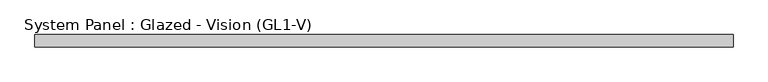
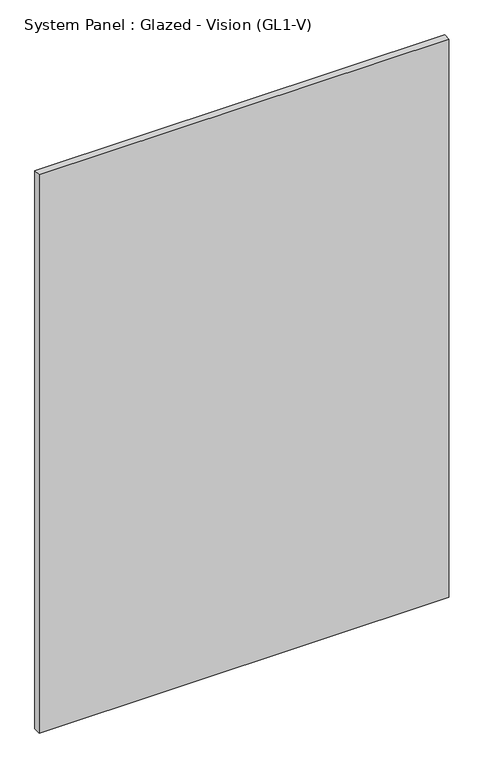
"""IFC4 building model written with IfcOpenShell, lengths in millimetres: plate geometry, System Panel : Glazed - Vision (GL1-V)."""

from ifc_helpers import new_model, si_unit, origin, origin_with_axes, place, context, project, spatial, polyline, outline, extrude, source, transform, mapped, element, save


def system_panel_glazed_vision_gl1_v_680a700e(model_context):
    return source(origin(), model_context, "Body", "SweptSolid", [
        extrude(outline(polyline([(714.375, -25.4), (-714.375, -25.4), (-714.375, 0.0), (714.375, 0.0), (714.375, -25.4)])), origin_with_axes(), (0.0, 0.0, 1.0), 2057.4),
    ])


if __name__ == "__main__":
    model = new_model("IFC4")
    model_context = context("Model", 3, world=origin())
    ifc_project = project(units=[si_unit("LENGTHUNIT", "METRE", prefix="MILLI")], contexts=[model_context])
    site = spatial("IfcSite", under=ifc_project)
    building = spatial("IfcBuilding", under=site)
    placement = place(None, origin())
    system_panel_glazed_vision_gl1_v_shape = system_panel_glazed_vision_gl1_v_680a700e(model_context)
    element("IfcPlate", 1, ObjectType="System Panel : Glazed - Vision (GL1-V)", at=placement, inside=building, context=model_context, shape_type="MappedRepresentation", body=[
        mapped(system_panel_glazed_vision_gl1_v_shape, transform((0.0, 0.0, 0.0), x_axis=(1.0, 0.0, 0.0), y_axis=(0.0, 1.0, 0.0), z_axis=(0.0, 0.0, 1.0))),
    ])
    save(model, "model.ifc")
